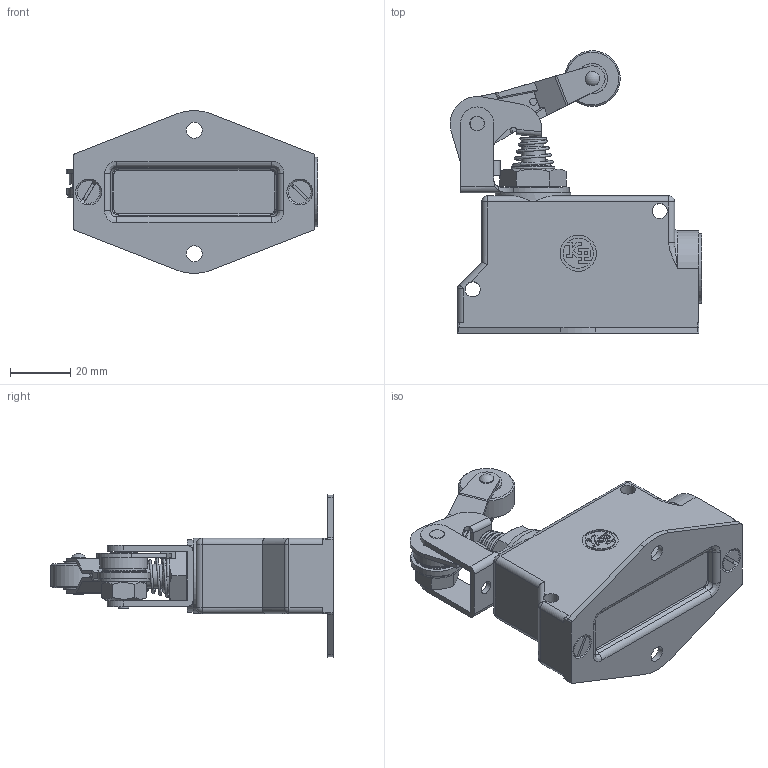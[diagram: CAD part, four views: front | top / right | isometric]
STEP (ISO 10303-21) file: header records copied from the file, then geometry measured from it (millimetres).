
FILE_DESCRIPTION(('Microrutor Basico Protegido Fixacao Flange Inferior Atuador Alavanca Regulavel c/ Roldana'),'2;1');
FILE_NAME('E:\WorkFolder\Bibl\3DWeb\kp_mc_mc4y_step.stp','2013-01-11T11:12:25',('DIE'),('KAP'),'Autodesk Inventor 2011','Autodesk Inventor 2011','Direitos reservados. Proibido reproducao, cedencia ou revelacao de conteudo a terceiros, salvo com autorizacao.');
FILE_SCHEMA(('AUTOMOTIVE_DESIGN { 1 0 10303 214 1 1 1 1 }'));
Length unit declared in the file: millimetre
Products named in the file (3): MC4Y_3D; MC_Caixa_4; MC_Atuador_Y
Assembly tree (2 placements, depth 2):
  MC4Y_3D
    MC_Caixa_4
    MC_Atuador_Y
Bounding box: 83.48 x 93.67 x 53.91 mm (x, y, z)
Volume: 83696.6 mm3; surface area: 28032.7 mm2
Topology: 3 solids, 12 shells, 890 faces, 2756 edges, 1735 vertices
Faces by surface type: plane 577, cylinder 236, bspline 43, cone 21, sphere 10, torus 3
Full cylindrical faces by diameter (mm): 2.4 x4, 2.459 x1, 3 x5, 3.1 x1, 3.242 x2, 3.3 x2, 4 x2, 4.5 x1, 4.762 x1, 4.763 x1, 4.805 x2, 4.9 x1, 5 x5, 5.3 x2, 6 x1, 6.2 x1, 6.647 x1, 7 x1, 7.9 x1, 7.937 x2, 8 x1, 8.4 x2, 8.5 x1, 11 x1, 11.9 x1, 12 x1, 14 x2, 15 x1, 15.875 x1, 17 x1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
Entity records: 33601 total; most frequent: CARTESIAN_POINT 7971, DIRECTION 5290, ORIENTED_EDGE 5266, EDGE_CURVE 2633, AXIS2_PLACEMENT_3D 1933, VERTEX_POINT 1700, VECTOR 1424, LINE 1424
